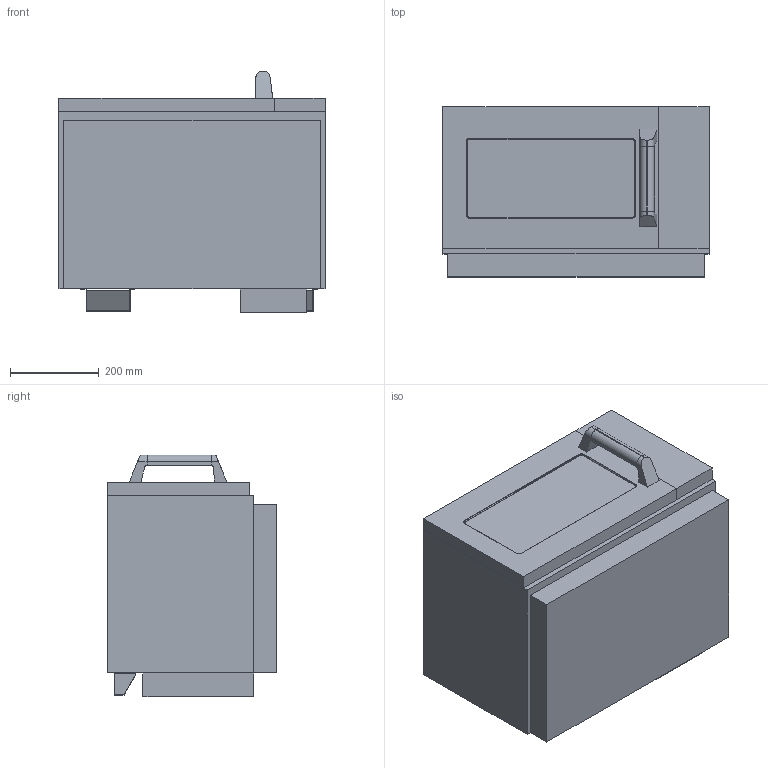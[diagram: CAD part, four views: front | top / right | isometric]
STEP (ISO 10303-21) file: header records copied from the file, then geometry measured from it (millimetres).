
FILE_DESCRIPTION (( 'STEP AP203' ), '1' );
FILE_NAME ('NE-C1275.STEP', '2018-08-21T02:07:09', ( '' ), ( '' ), 'SwSTEP 2.0', 'SolidWorks 2013', '' );
FILE_SCHEMA (( 'CONFIG_CONTROL_DESIGN' ));
Length unit declared in the file: millimetre
Products named in the file (1): NE-C1275
Bounding box: 600 x 383 x 545 mm (x, y, z)
Volume: 98653826.6 mm3; surface area: 1411018.5 mm2
Topology: 1 solids, 1 shells, 198 faces, 524 edges, 322 vertices
Faces by surface type: plane 114, cylinder 64, sphere 8, torus 8, cone 4
Entity records: 6055 total; most frequent: CARTESIAN_POINT 1103, ORIENTED_EDGE 1032, DIRECTION 1006, EDGE_CURVE 516, VECTOR 380, LINE 380, VERTEX_POINT 322, AXIS2_PLACEMENT_3D 313
